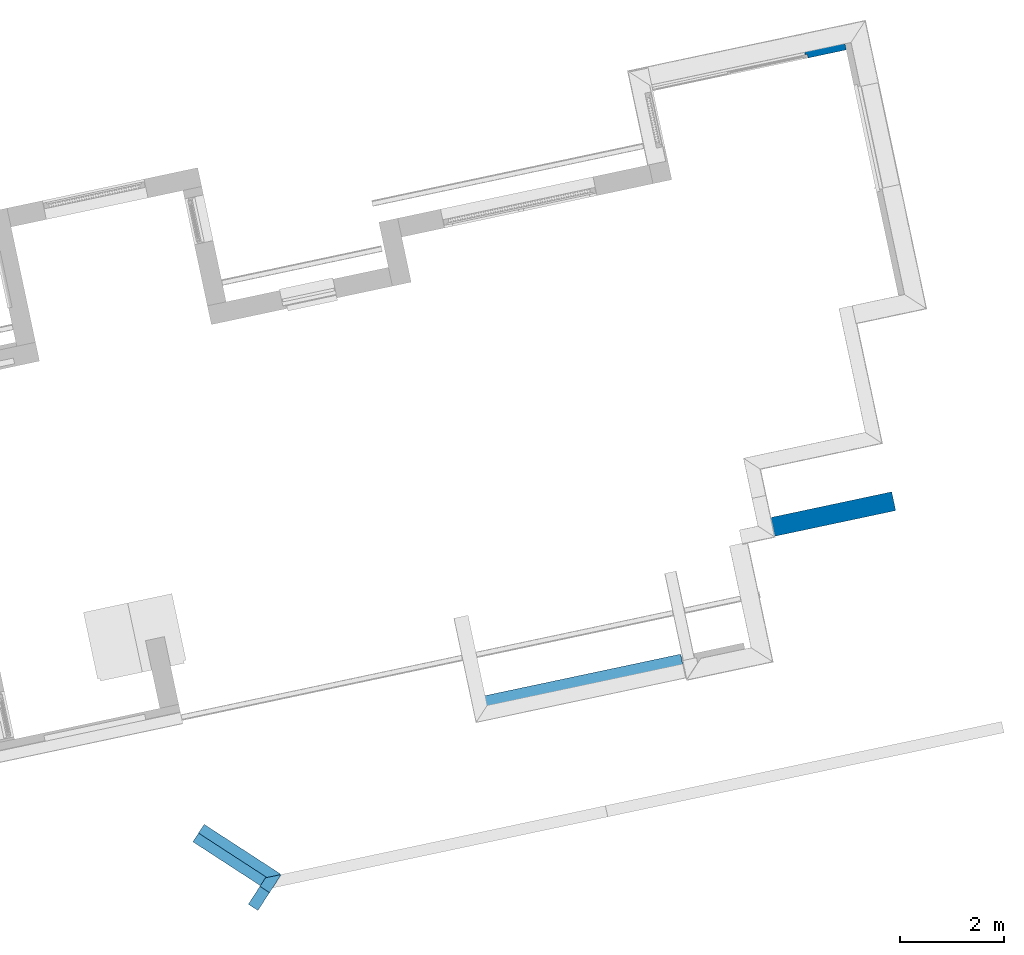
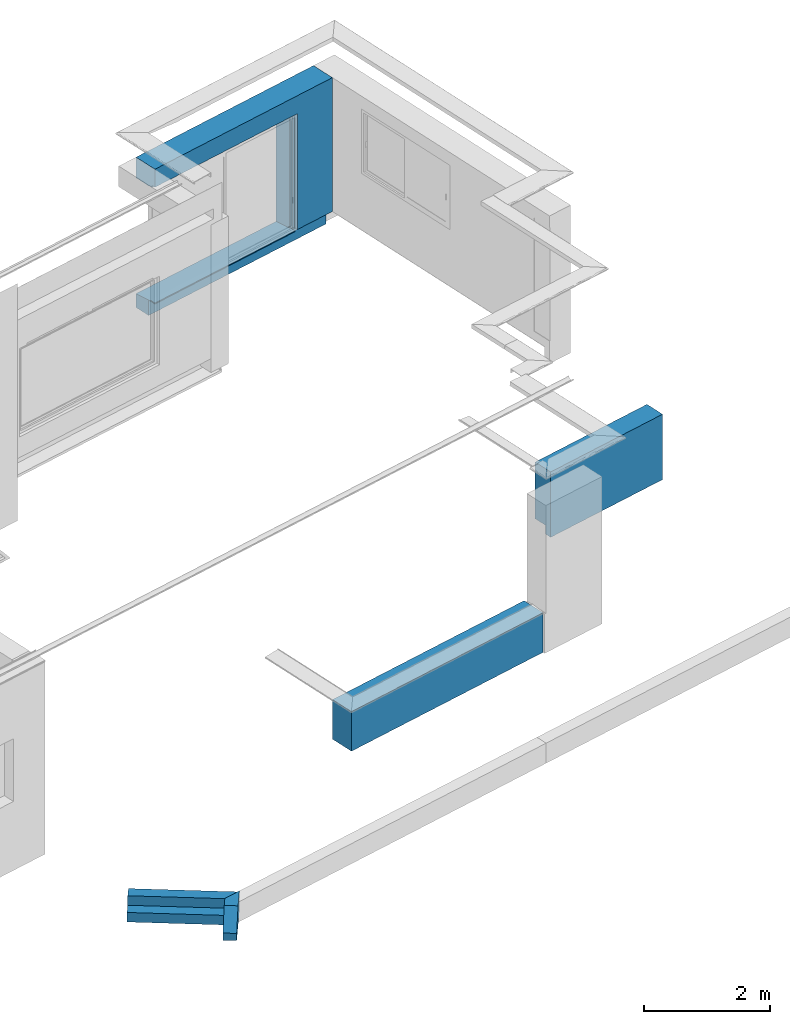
# One storey, part 5 of 22: 4 walls, 1 stair, 2 openings, 1 element without a shape of its own.
"""IFC2X3 building model written with IfcOpenShell, lengths in centimetres."""

from ifc_helpers import new_model, entity, si_unit, converted_unit, derived_unit, direction, frame, frame_2d, origin, place, context, subcontext, project, spatial, polyline, rectangle, outline, extrude, clip, bounded_halfspace, faceted_brep, material, layer, layer_set, layer_usage, type_object, element, aggregate, save


model = new_model("IFC2X3")

# Units and contexts
model_context = context("Model", 3, precision=0.001, world=origin(), true_north=direction((6.12303176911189e-17, 1.0)))
body_context = subcontext(model_context, "Body", "Model", "MODEL_VIEW")
ifc_project = project(units=[si_unit("LENGTHUNIT", "METRE", prefix="CENTI"), si_unit("AREAUNIT", "SQUARE_METRE"), si_unit("VOLUMEUNIT", "CUBIC_METRE"), converted_unit("PLANEANGLEUNIT", "DEGREE", entity("IfcRatioMeasure", 0.0174532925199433), si_unit("PLANEANGLEUNIT", "RADIAN"), dimensions=[0, 0, 0, 0, 0, 0, 0]), si_unit("MASSUNIT", "GRAM", prefix="KILO"), derived_unit("MASSDENSITYUNIT", [(si_unit("MASSUNIT", "GRAM", prefix="KILO"), 1), (si_unit("LENGTHUNIT", "METRE"), -3)]), derived_unit("IONCONCENTRATIONUNIT", [(si_unit("MASSUNIT", "GRAM", prefix="KILO"), 1), (si_unit("LENGTHUNIT", "METRE"), -3)]), derived_unit("MOMENTOFINERTIAUNIT", [(si_unit("LENGTHUNIT", "METRE"), 4)]), si_unit("TIMEUNIT", "SECOND"), si_unit("FREQUENCYUNIT", "HERTZ"), si_unit("THERMODYNAMICTEMPERATUREUNIT", "DEGREE_CELSIUS"), derived_unit("THERMALTRANSMITTANCEUNIT", [(si_unit("MASSUNIT", "GRAM", prefix="KILO"), 1), (si_unit("THERMODYNAMICTEMPERATUREUNIT", "KELVIN"), -1), (si_unit("TIMEUNIT", "SECOND"), -3)]), derived_unit("THERMALCONDUCTANCEUNIT", [(si_unit("MASSUNIT", "GRAM", prefix="KILO"), 1), (si_unit("THERMODYNAMICTEMPERATUREUNIT", "KELVIN"), -1), (si_unit("TIMEUNIT", "SECOND"), -3), (si_unit("LENGTHUNIT", "METRE"), 1)]), derived_unit("VOLUMETRICFLOWRATEUNIT", [(si_unit("LENGTHUNIT", "METRE"), 3), (si_unit("TIMEUNIT", "SECOND"), -1)]), derived_unit("MASSFLOWRATEUNIT", [(si_unit("MASSUNIT", "GRAM", prefix="KILO"), 1), (si_unit("TIMEUNIT", "SECOND"), -1)]), derived_unit("ROTATIONALFREQUENCYUNIT", [(si_unit("TIMEUNIT", "SECOND"), -1)]), si_unit("ELECTRICCURRENTUNIT", "AMPERE"), si_unit("ELECTRICVOLTAGEUNIT", "VOLT"), si_unit("POWERUNIT", "WATT"), si_unit("FORCEUNIT", "NEWTON", prefix="KILO"), si_unit("ILLUMINANCEUNIT", "LUX"), si_unit("LUMINOUSFLUXUNIT", "LUMEN"), si_unit("LUMINOUSINTENSITYUNIT", "CANDELA"), derived_unit("USERDEFINED", [(si_unit("MASSUNIT", "GRAM", prefix="KILO"), -1), (si_unit("LENGTHUNIT", "METRE"), -2), (si_unit("TIMEUNIT", "SECOND"), 3), (si_unit("LUMINOUSFLUXUNIT", "LUMEN"), 1)]), derived_unit("USERDEFINED", [(si_unit("MASSUNIT", "GRAM", prefix="KILO"), 1), (si_unit("TIMEUNIT", "SECOND"), -3), (si_unit("LENGTHUNIT", "METRE"), 3), (si_unit("ELECTRICCURRENTUNIT", "AMPERE"), -2)]), derived_unit("SOUNDPOWERUNIT", [(si_unit("MASSUNIT", "GRAM", prefix="KILO"), 1), (si_unit("TIMEUNIT", "SECOND"), -3), (si_unit("LENGTHUNIT", "METRE"), 2)]), derived_unit("SOUNDPRESSUREUNIT", [(si_unit("MASSUNIT", "GRAM", prefix="KILO"), 1), (si_unit("LENGTHUNIT", "METRE"), -1), (si_unit("TIMEUNIT", "SECOND"), -2)]), derived_unit("LINEARVELOCITYUNIT", [(si_unit("LENGTHUNIT", "METRE"), 1), (si_unit("TIMEUNIT", "SECOND"), -1)]), si_unit("PRESSUREUNIT", "PASCAL"), derived_unit("USERDEFINED", [(si_unit("MASSUNIT", "GRAM", prefix="KILO"), 1), (si_unit("LENGTHUNIT", "METRE"), -2), (si_unit("TIMEUNIT", "SECOND"), -2)]), derived_unit("LINEARFORCEUNIT", [(si_unit("MASSUNIT", "GRAM", prefix="KILO"), 1), (si_unit("TIMEUNIT", "SECOND"), -2)]), derived_unit("PLANARFORCEUNIT", [(si_unit("MASSUNIT", "GRAM", prefix="KILO"), 1), (si_unit("LENGTHUNIT", "METRE"), -1), (si_unit("TIMEUNIT", "SECOND"), -2)]), derived_unit("SPECIFICHEATCAPACITYUNIT", [(si_unit("THERMODYNAMICTEMPERATUREUNIT", "KELVIN"), -1), (si_unit("LENGTHUNIT", "METRE"), 2), (si_unit("TIMEUNIT", "SECOND"), -2)]), derived_unit("HEATINGVALUEUNIT", [(si_unit("LENGTHUNIT", "METRE"), 2), (si_unit("TIMEUNIT", "SECOND"), -2)]), derived_unit("VAPORPERMEABILITYUNIT", [(si_unit("LENGTHUNIT", "METRE"), -1), (si_unit("TIMEUNIT", "SECOND"), 1)]), derived_unit("DYNAMICVISCOSITYUNIT", [(si_unit("MASSUNIT", "GRAM", prefix="KILO"), 1), (si_unit("TIMEUNIT", "SECOND"), -1), (si_unit("LENGTHUNIT", "METRE"), -1)]), derived_unit("THERMALEXPANSIONCOEFFICIENTUNIT", [(si_unit("THERMODYNAMICTEMPERATUREUNIT", "KELVIN"), -1)]), derived_unit("MODULUSOFELASTICITYUNIT", [(si_unit("MASSUNIT", "GRAM", prefix="KILO"), 1), (si_unit("LENGTHUNIT", "METRE"), -1), (si_unit("TIMEUNIT", "SECOND"), -2)]), derived_unit("ISOTHERMALMOISTURECAPACITYUNIT", [(si_unit("LENGTHUNIT", "METRE"), 3), (si_unit("MASSUNIT", "GRAM", prefix="KILO"), -1)]), derived_unit("MOISTUREDIFFUSIVITYUNIT", [(si_unit("TIMEUNIT", "SECOND"), -1), (si_unit("LENGTHUNIT", "METRE"), 2)])], contexts=[model_context])

# Site, building, storey
site_placement = place(None, frame((14083.8920177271, -6853.25409548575, 6900.0), z_axis=(0.0, 0.0, 1.0), x_axis=(0.978188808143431, 0.207717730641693, 0.0)))
site = spatial("IfcSite", under=ifc_project, at=site_placement, Name="Surface", CompositionType="ELEMENT")
building_placement = place(site_placement, origin())
building = spatial("IfcBuilding", under=site, at=building_placement, CompositionType="ELEMENT")
storey_placement = place(building_placement, frame((0.0, 0.0, -17.0)))
storey = spatial("IfcBuildingStorey", under=building, at=storey_placement, Name="Rez de chaussée (SD)", CompositionType="ELEMENT", Elevation=-16.9999999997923)

# Walls
ifc_material_1 = material(Name="__ ENDUIT_Blanc")
ifc_layer_1 = layer(ifc_material_1, 2.0)
ifc_material_2 = material(Name="__ BETON_parpaings")
ifc_layer_2 = layer(ifc_material_2, 20.0)
ifc_material_3 = material(Name="__ ISOLANT (pat 1)")
ifc_layer_3 = layer(ifc_material_3, 13.0)
ifc_layer_4 = layer(ifc_material_1, 2.0)
ifc_layer_set_1 = layer_set([ifc_layer_1, ifc_layer_2, ifc_layer_3, ifc_layer_4], Name="Mur de base:*BRIQUE 37 (20 +INT 13+2 + EXT 2) (Iso+BA13)(enduit)")
wall_type_1 = type_object("IfcWallType", Name="Mur de base:*BRIQUE 37 (20 +INT 13+2 + EXT 2) (Iso+BA13)(enduit)", PredefinedType="STANDARD", material=ifc_layer_set_1)
wall_1_placement = place(storey_placement, frame((-5950.81321908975, 14809.1673447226, 0.0), z_axis=(0.0, 0.0, 1.0), x_axis=(-1.0, 0.0, 0.0)))
element("IfcWall", 1, at=wall_1_placement, inside=storey, type_object=wall_type_1, Name="Mur de base:*BRIQUE 37 (20 +INT 13+2 + EXT 2) (Iso+BA13)(enduit)", ObjectType="Mur de base:*BRIQUE 37 (20 +INT 13+2 + EXT 2) (Iso+BA13)(enduit)", context=body_context, shape_type="Brep", body=[
    faceted_brep([(239.50000000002, -18.500000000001, 127.0), (37.0, -18.500000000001, 127.0), (0.0, -18.500000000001, 127.0), (0.0, -18.500000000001, 17.0), (0.0, -18.500000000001, 0.0), (12.0, -18.500000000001, 0.0), (12.0, -18.500000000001, 17.0), (37.0, -18.500000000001, 17.0), (239.50000000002, -18.500000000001, 17.0), (239.50000000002, 18.4999999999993, 0.0), (0.0, 18.4999999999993, 0.0), (0.0, 18.4999999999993, 127.0), (239.50000000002, 18.4999999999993, 127.0), (239.50000000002, 18.4999999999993, 17.0), (239.50000000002, 6.50000000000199, 0.0), (12.0, 6.50000000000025, 0.0), (239.50000000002, 6.50000000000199, 17.0), (12.0, 6.50000000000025, 17.0)], [[[0, 1, 2, 3, 4, 5, 6, 7, 8]], [[9, 10, 11, 12, 13]], [[10, 9, 14, 15, 5, 4]], [[9, 13, 12, 0, 8, 16, 14]], [[2, 1, 0, 12, 11]], [[4, 3, 2, 11, 10]], [[6, 17, 16, 8, 7]], [[16, 17, 15, 14]], [[17, 6, 5, 15]]]),
])
ifc_material_4 = material(Name="__ PIERRE______________________TEST")
ifc_layer_5 = layer(ifc_material_4, 10.0)
ifc_layer_6 = layer(ifc_material_2, 20.0)
ifc_layer_7 = layer(ifc_material_3, 13.0)
ifc_layer_8 = layer(ifc_material_1, 2.0)
ifc_layer_set_2 = layer_set([ifc_layer_5, ifc_layer_6, ifc_layer_7, ifc_layer_8], Name="Mur de base:*Mur (45) maçonné isolé + parement pierre + couronnement zinc")
wall_type_2 = type_object("IfcWallType", Name="Mur de base:*Mur (45) maçonné isolé + parement pierre + couronnement zinc", PredefinedType="STANDARD", material=ifc_layer_set_2)
wall_2_placement = place(storey_placement, frame((-6412.81321908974, 14584.1324526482, 0.0), z_axis=(0.0, 0.0, 1.0), x_axis=(-1.0, 0.0, 0.0)))
element("IfcWall", 2, at=wall_2_placement, inside=storey, type_object=wall_type_2, Name="Mur de base:*Mur (45) maçonné isolé + parement pierre + couronnement zinc", ObjectType="Mur de base:*Mur (45) maçonné isolé + parement pierre + couronnement zinc", context=body_context, shape_type="Brep", body=[
    faceted_brep([(410.141924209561, -22.5000000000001, 77.0), (365.141924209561, -22.5000000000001, 77.0), (0.0, -22.5000000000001, 77.0), (0.0, -22.5000000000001, 17.0), (365.141924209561, -22.5000000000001, 17.0), (376.641924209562, -22.5000000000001, 17.0), (376.641924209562, -22.5000000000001, 0.0), (410.141924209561, -22.5000000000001, 0.0), (410.141924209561, -22.5000000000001, 17.0), (410.141924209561, 22.5000000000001, 0.0), (0.0, 22.5000000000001, 0.0), (0.0, 22.5000000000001, 77.0), (410.141924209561, 22.5000000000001, 77.0), (376.641924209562, 6.50000000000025, 0.0), (0.0, 6.50000000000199, 0.0), (0.0, 6.50000000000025, 17.0), (376.641924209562, 6.50000000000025, 17.0)], [[[0, 1, 2, 3, 4, 5, 6, 7, 8]], [[9, 10, 11, 12]], [[10, 9, 7, 6, 13, 14]], [[2, 1, 0, 12, 11]], [[11, 10, 14, 15, 3, 2]], [[0, 8, 7, 9, 12]], [[15, 16, 5, 4, 3]], [[16, 15, 14, 13]], [[5, 16, 13, 6]]]),
])

# Wall, openings
ifc_layer_9 = layer(ifc_material_4, 10.0)
ifc_layer_10 = layer(ifc_material_2, 20.0)
ifc_layer_11 = layer(ifc_material_3, 13.0)
ifc_layer_12 = layer(ifc_material_1, 2.0)
ifc_layer_set_3 = layer_set([ifc_layer_9, ifc_layer_10, ifc_layer_11, ifc_layer_12], Name="Mur de base:*Mur (45) maçonné isolé + parement pierre")
ifc_layer_usage = layer_usage(ifc_layer_set_3, "AXIS2", "NEGATIVE", 22.5)
wall_type_3 = type_object("IfcWallType", Name="Mur de base:*Mur (45) maçonné isolé + parement pierre", PredefinedType="STANDARD", material=ifc_layer_set_3)
wall_3_placement = place(storey_placement, frame((-6239.81321908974, 15699.6673447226, -15.0)))
wall_3 = element("IfcWallStandardCase", 3, at=wall_3_placement, inside=storey, type_object=wall_type_3, material=ifc_layer_usage, Name="Mur de base:*Mur (45) maçonné isolé + parement pierre", ObjectType="Mur de base:*Mur (45) maçonné isolé + parement pierre", context=body_context, shape_type="Clipping", body=[
    clip(clip(extrude(rectangle(XDim=380.0, YDim=45.0000000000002, at=frame_2d((190.0, 0.0), x_axis=(-1.0, 0.0))), origin(), (0.0, 0.0, 1.0), 291.999999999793), bounded_halfspace(frame((300.0, -7.50000000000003, 32.0), z_axis=(0.0, 0.0, 1.0), x_axis=(0.0, 1.0, 0.0)), True, frame((300.0, -7.50000000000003, 32.0), z_axis=(0.0, 0.0, 1.0), x_axis=(0.0, 1.0, 0.0)), polyline([(0.0, 0.0), (-2.0, 0.0), (-2.0, -1.0), (-8.0, -1.0), (-8.0, -5.0), (-15.0, -5.0), (-15.0, -80.0), (0.0, -80.0), (0.0, 0.0)]))), bounded_halfspace(frame((380.0, -7.50000000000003, 32.0), z_axis=(0.0, 1.0, 0.0), x_axis=(0.0, 0.0, 1.0)), True, frame((380.0, -7.50000000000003, 32.0), z_axis=(0.0, 1.0, 0.0), x_axis=(0.0, 0.0, 1.0)), polyline([(0.0, 0.0), (-27.0, 0.0), (-32.0, 0.0), (-32.0, -380.0), (-1.9204169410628, -380.0), (-1.92041694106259, -80.0), (0.0, -80.0), (0.0, 0.0)]))),
])
opening_1_placement = place(wall_3_placement, origin())
element("IfcOpeningElement", 4, at=opening_1_placement, cuts=wall_3, Name="Mur de base:*Mur (45) maçonné isolé + parement pierre", ObjectType="Opening", context=body_context, shape_type="SweptSolid", body=[
    extrude(rectangle(XDim=220.0, YDim=37.0000000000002, at=frame_2d((0.0, 0.0), x_axis=(0.0, 1.0))), frame((-18.5000000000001, -132.499999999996, 142.0), z_axis=(0.0, 1.0, 0.0), x_axis=(1.0, 0.0, 0.0)), (0.0, 0.0, 1.0), 109.999999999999),
])
opening_2_placement = place(wall_3_placement, frame((-5.0, -50.0, 24.0360895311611)))
element("IfcOpeningElement", 5, at=opening_2_placement, cuts=wall_3, Name="Mur de base:*Mur (45) maçonné isolé + parement pierre", ObjectType="Opening", context=body_context, shape_type="Brep", body=[
    faceted_brep([(305.0, 38.5000000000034, 7.96391046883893), (305.0, 38.5000000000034, 6.46391046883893), (305.0, 100.0, 0.0), (305.0, 100.0, 227.963910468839), (305.0, 40.5000000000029, 227.963910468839), (305.0, 40.5000000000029, 7.96391046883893), (5.0, 0.0, 7.96391046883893), (5.0, 0.0, 227.963910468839), (5.0, 27.5000000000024, 227.963910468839), (5.0, 27.5000000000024, 7.96391046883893), (305.0, 0.0, 7.96391046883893), (0.0, 27.5000000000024, 7.96391046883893), (0.0, 34.5000000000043, 7.96391046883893), (4.0, 34.5000000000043, 7.96391046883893), (4.0, 40.5000000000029, 7.96391046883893), (5.0, 40.5000000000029, 7.96391046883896), (5.0, 38.5000000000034, 7.96391046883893), (306.0, 40.5000000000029, 7.96391046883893), (306.0, 34.5000000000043, 7.96391046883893), (310.0, 34.5000000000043, 7.96391046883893), (310.0, 27.5000000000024, 7.96391046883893), (305.0, 27.5000000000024, 7.96391046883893), (305.0, 0.0, 227.963910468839), (305.0, 27.5000000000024, 227.963910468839), (5.0, 100.0, 0.0), (5.0, 100.0, 227.963910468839), (5.0, 38.5000000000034, 6.46391046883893), (310.0, 34.5000000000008, 232.96391046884), (310.0, 27.5000000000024, 232.96391046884), (306.0, 34.5000000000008, 228.963910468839), (4.0, 34.5000000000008, 228.963910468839), (0.0, 34.5000000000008, 232.96391046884), (306.0, 40.4999999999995, 228.963910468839), (5.0, 40.5000000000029, 227.963910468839), (4.0, 40.5000000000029, 228.963910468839), (0.0, 27.5000000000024, 232.96391046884)], [[[0, 1, 2, 3, 4, 5]], [[6, 7, 8, 9]], [[10, 6, 9, 11, 12, 13, 14, 15, 16, 0, 5, 17, 18, 19, 20, 21]], [[10, 22, 7, 6]], [[7, 22, 23, 8]], [[3, 2, 24, 25]], [[2, 1, 26, 24]], [[1, 0, 16, 26]], [[20, 19, 27, 28]], [[19, 18, 29, 30, 13, 12, 31, 27]], [[18, 17, 32, 29]], [[17, 5, 4, 33, 15, 14, 34, 32]], [[21, 20, 28, 35, 11, 9, 8, 23]], [[28, 27, 31, 35]], [[30, 29, 32, 34]], [[31, 12, 11, 35]], [[13, 30, 34, 14]], [[3, 25, 33, 4]], [[25, 24, 26, 16, 15, 33]], [[22, 10, 21, 23]]]),
])

# Wall
ifc_layer_13 = layer(ifc_material_4, 2.0)
ifc_material_5 = material(Name="__ BETON______________________TEST")
ifc_layer_14 = layer(ifc_material_5, 20.0)
ifc_layer_set_4 = layer_set([ifc_layer_13, ifc_layer_14], Name="Mur de base:*BETON 22 (20 + EXT 2) (parement)")
wall_type_4 = type_object("IfcWallType", Name="Mur de base:*BETON 22 (20 + EXT 2) (parement)", PredefinedType="STANDARD", material=ifc_layer_set_4)
wall_4_placement = place(storey_placement, frame((-7259.7994723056, 14359.3746712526, 0.0), z_axis=(0.0, 0.0, 1.0), x_axis=(-0.707106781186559, -0.707106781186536, 0.0)))
element("IfcWall", 6, at=wall_4_placement, inside=storey, type_object=wall_type_4, Name="Mur de base:*BETON 22 (20 + EXT 2) (parement)", ObjectType="Mur de base:*BETON 22 (20 + EXT 2) (parement)", context=body_context, shape_type="Brep", body=[
    faceted_brep([(22.0, -11.0, 0.0), (82.5563491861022, -11.0, 0.0), (82.5563491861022, -11.0, 14.0), (41.5563491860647, -11.0, 39.0), (22.0, -11.0, 39.0), (0.0, 11.0, 0.0), (0.0, 11.0, 39.0), (31.1126983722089, 11.0, 39.0), (41.5563491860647, 11.0, 39.0), (82.5563491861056, 11.0, 14.0), (82.5563491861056, 11.0, 0.0), (31.1126983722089, 11.0, 0.0)], [[[0, 1, 2, 3, 4]], [[5, 6, 7, 8, 9, 10, 11]], [[0, 4, 6, 5]], [[1, 0, 5, 11, 10]], [[2, 1, 10, 9]], [[4, 3, 8, 7, 6]], [[3, 2, 9, 8]]]),
])

# Stairs
stair_1_placement = place(storey_placement, origin())
stair_1 = element("IfcStair", 7, at=stair_1_placement, inside=storey, Name="Escalier:*Béton (extérieur)", ObjectType="Escalier:*Béton (extérieur)", ShapeType="NOTDEFINED")
ifc_material_6 = material(Name="<Unnamed>")
stair_2_placement = place(stair_1_placement, origin())
stair_2 = element("IfcStair", 8, at=stair_2_placement, material=ifc_material_6, Name="Escalier:*Béton (extérieur)", ObjectType="Escalier:*Béton (extérieur)", ShapeType="NOTDEFINED", context=body_context, shape_type="SweptSolid", body=[
    extrude(outline(polyline([(-1.08604197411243, 1.17409943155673), (17.4139580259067, 1.17409943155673), (17.41395802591, 21.1740994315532), (6.51625184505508, 21.174099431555), (-19.5860419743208, -7.04459658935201), (-19.5860419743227, -18.8259005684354), (-1.08604197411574, -18.8259005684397), (-1.08604197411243, 1.17409943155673)])), frame((-7268.40786056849, 14338.0383609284, 19.5860419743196), z_axis=(-0.707106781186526, 0.707106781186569, 0.0), x_axis=(0.0, 0.0, 1.0)), (0.0, 0.0, 1.0), 174.884148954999),
])
aggregate(stair_1, [stair_2])

save(model, "model.ifc")
